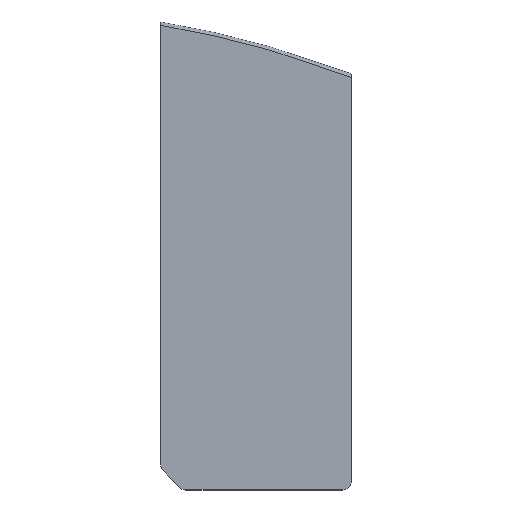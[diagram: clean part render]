
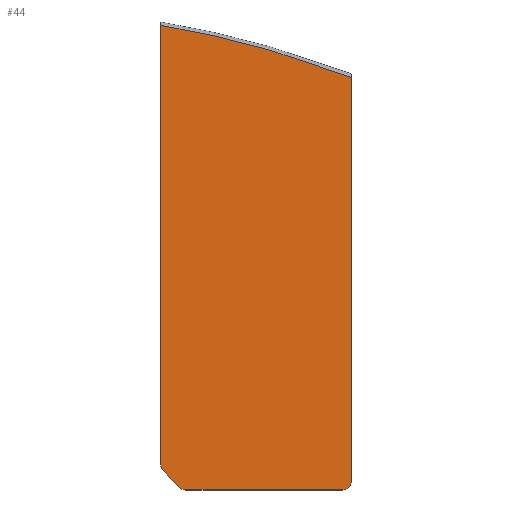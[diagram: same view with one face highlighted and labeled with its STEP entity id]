
A CAD part, top view. The second image highlights one B-rep face of the part: STEP entity #44.
In plain terms, the highlighted planar face has unit normal (0, 0, 1).
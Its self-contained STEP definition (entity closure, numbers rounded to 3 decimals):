
#5 = B_SPLINE_CURVE_WITH_KNOTS ( 'NONE', 3,
 ( #208, #173, #22, #120, #85, #360 ),
 .UNSPECIFIED., .F., .F.,
 ( 4, 2, 4 ),
 ( 0.023, 0.489, 0.979 ),
 .UNSPECIFIED. ) ;
#11 = CARTESIAN_POINT ( 'NONE',  ( 42., 0., 0.2 ) ) ;
#13 = VERTEX_POINT ( 'NONE', #262 ) ;
#19 = EDGE_CURVE ( 'NONE', #55, #200, #267, .T. ) ;
#22 = CARTESIAN_POINT ( 'NONE',  ( 29.997, 100.204, 0.2 ) ) ;
#26 = DIRECTION ( 'NONE',  ( -0.707, 0.707, 0. ) ) ;
#28 = ORIENTED_EDGE ( 'NONE', *, *, #297, .T. ) ;
#34 = EDGE_CURVE ( 'NONE', #119, #207, #266, .T. ) ;
#39 = CARTESIAN_POINT ( 'NONE',  ( 4.414, 0.586, 0.2 ) ) ;
#44 = ADVANCED_FACE ( 'NONE', ( #136 ), #233, .F. ) ;
#50 = CARTESIAN_POINT ( 'NONE',  ( 44., 2., 0.2 ) ) ;
#51 = ORIENTED_EDGE ( 'NONE', *, *, #34, .T. ) ;
#53 = EDGE_CURVE ( 'NONE', #182, #13, #97, .T. ) ;
#55 = VERTEX_POINT ( 'NONE', #11 ) ;
#61 = CARTESIAN_POINT ( 'NONE',  ( 44., 95.212, 0.2 ) ) ;
#70 = CARTESIAN_POINT ( 'NONE',  ( 42., 2., 0.2 ) ) ;
#77 = CIRCLE ( 'NONE', #252, 2. ) ;
#80 = DIRECTION ( 'NONE',  ( 0., 0., -1. ) ) ;
#85 = CARTESIAN_POINT ( 'NONE',  ( 7.68, 105.955, 0.2 ) ) ;
#97 = CIRCLE ( 'NONE', #114, 2. ) ;
#103 = VECTOR ( 'NONE', #225, 1000. ) ;
#107 = DIRECTION ( 'NONE',  ( -1., 0., 0. ) ) ;
#114 = AXIS2_PLACEMENT_3D ( 'NONE', #259, #140, #107 ) ;
#119 = VERTEX_POINT ( 'NONE', #193 ) ;
#120 = CARTESIAN_POINT ( 'NONE',  ( 15.307, 104.262, 0.2 ) ) ;
#123 = ORIENTED_EDGE ( 'NONE', *, *, #269, .T. ) ;
#136 = FACE_OUTER_BOUND ( 'NONE', #141, .T. ) ;
#137 = DIRECTION ( 'NONE',  ( 0., 0., 1. ) ) ;
#138 = ORIENTED_EDGE ( 'NONE', *, *, #188, .T. ) ;
#140 = DIRECTION ( 'NONE',  ( 0., 0., 1. ) ) ;
#141 = EDGE_LOOP ( 'NONE', ( #364, #238, #138, #311, #28, #123, #51, #381 ) ) ;
#150 = EDGE_CURVE ( 'NONE', #207, #340, #77, .T. ) ;
#153 = LINE ( 'NONE', #239, #341 ) ;
#161 = VECTOR ( 'NONE', #26, 1000. ) ;
#173 = CARTESIAN_POINT ( 'NONE',  ( 37.07, 97.873, 0.2 ) ) ;
#175 = CARTESIAN_POINT ( 'NONE',  ( 0., 5.828, 0.2 ) ) ;
#179 = LINE ( 'NONE', #307, #161 ) ;
#181 = CARTESIAN_POINT ( 'NONE',  ( 0.586, 4.414, 0.2 ) ) ;
#182 = VERTEX_POINT ( 'NONE', #39 ) ;
#188 = EDGE_CURVE ( 'NONE', #13, #55, #223, .T. ) ;
#193 = CARTESIAN_POINT ( 'NONE',  ( 0., 107.254, 0.2 ) ) ;
#200 = VERTEX_POINT ( 'NONE', #50 ) ;
#202 = DIRECTION ( 'NONE',  ( -1., 0., 0. ) ) ;
#207 = VERTEX_POINT ( 'NONE', #175 ) ;
#208 = CARTESIAN_POINT ( 'NONE',  ( 44., 95.212, 0.2 ) ) ;
#223 = LINE ( 'NONE', #352, #103 ) ;
#225 = DIRECTION ( 'NONE',  ( 1., 0., 0. ) ) ;
#231 = AXIS2_PLACEMENT_3D ( 'NONE', #70, #294, #257 ) ;
#233 = PLANE ( 'NONE',  #376 ) ;
#238 = ORIENTED_EDGE ( 'NONE', *, *, #53, .T. ) ;
#239 = CARTESIAN_POINT ( 'NONE',  ( 44., 96., 0.2 ) ) ;
#252 = AXIS2_PLACEMENT_3D ( 'NONE', #260, #137, #385 ) ;
#257 = DIRECTION ( 'NONE',  ( -1., 0., 0. ) ) ;
#259 = CARTESIAN_POINT ( 'NONE',  ( 5.828, 2., 0.2 ) ) ;
#260 = CARTESIAN_POINT ( 'NONE',  ( 2., 5.828, 0.2 ) ) ;
#262 = CARTESIAN_POINT ( 'NONE',  ( 5.828, 0., 0.2 ) ) ;
#266 = LINE ( 'NONE', #389, #275 ) ;
#267 = CIRCLE ( 'NONE', #231, 2. ) ;
#269 = EDGE_CURVE ( 'NONE', #394, #119, #5, .T. ) ;
#275 = VECTOR ( 'NONE', #291, 1000. ) ;
#291 = DIRECTION ( 'NONE',  ( 0., -1., 0. ) ) ;
#294 = DIRECTION ( 'NONE',  ( 0., 0., 1. ) ) ;
#297 = EDGE_CURVE ( 'NONE', #200, #394, #153, .T. ) ;
#307 = CARTESIAN_POINT ( 'NONE',  ( 0., 5., 0.2 ) ) ;
#311 = ORIENTED_EDGE ( 'NONE', *, *, #19, .T. ) ;
#338 = EDGE_CURVE ( 'NONE', #182, #340, #179, .T. ) ;
#340 = VERTEX_POINT ( 'NONE', #181 ) ;
#341 = VECTOR ( 'NONE', #393, 1000. ) ;
#352 = CARTESIAN_POINT ( 'NONE',  ( 44., 0., 0.2 ) ) ;
#360 = CARTESIAN_POINT ( 'NONE',  ( 0., 107.254, 0.2 ) ) ;
#361 = CARTESIAN_POINT ( 'NONE',  ( -38.219, -118.802, 0.2 ) ) ;
#364 = ORIENTED_EDGE ( 'NONE', *, *, #338, .F. ) ;
#376 = AXIS2_PLACEMENT_3D ( 'NONE', #361, #80, #202 ) ;
#381 = ORIENTED_EDGE ( 'NONE', *, *, #150, .T. ) ;
#385 = DIRECTION ( 'NONE',  ( -1., 0., 0. ) ) ;
#389 = CARTESIAN_POINT ( 'NONE',  ( 0., 0., 0.2 ) ) ;
#393 = DIRECTION ( 'NONE',  ( 0., 1., 0. ) ) ;
#394 = VERTEX_POINT ( 'NONE', #61 ) ;
